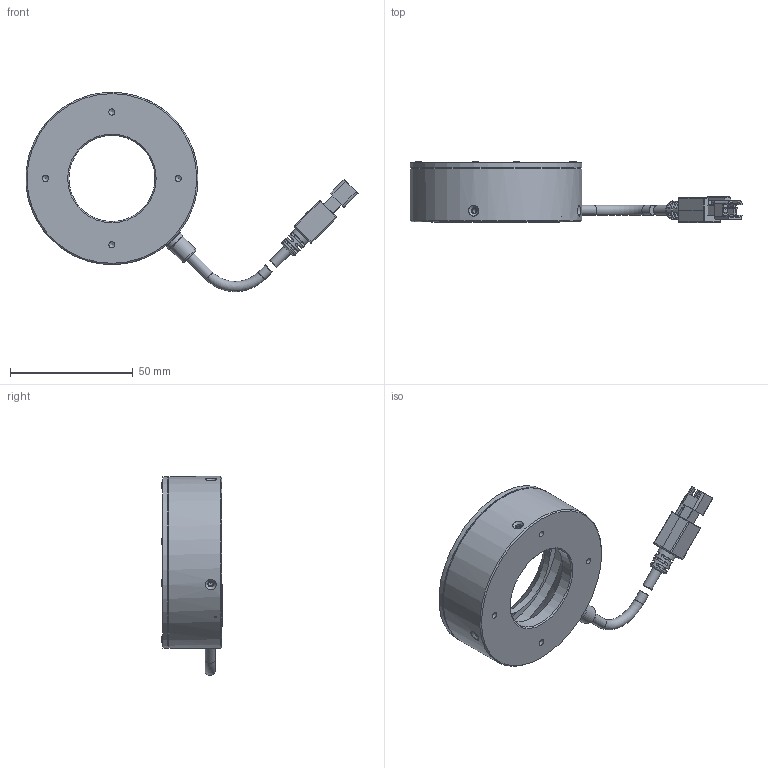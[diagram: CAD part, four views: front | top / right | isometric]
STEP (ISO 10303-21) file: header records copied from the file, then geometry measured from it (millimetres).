
FILE_DESCRIPTION (( 'STEP AP203' ), '1' );
FILE_NAME ('OPT-RI7045-X-V5.0U尨砩芞.STEP', '2024-12-12T07:40:58', ( '' ), ( '' ), 'SwSTEP 2.0', 'SolidWorks 2016', '' );
FILE_SCHEMA (( 'CONFIG_CONTROL_DESIGN' ));
Length unit declared in the file: millimetre
Products named in the file (1): OPT-RI7045-X-V5.0U尨砩芞
Bounding box: 134.96 x 24.7 x 81.02 mm (x, y, z)
Volume: 51246.8 mm3; surface area: 26487.4 mm2
Topology: 11 solids, 11 shells, 462 faces, 1150 edges, 731 vertices
Faces by surface type: plane 249, cylinder 137, cone 40, bspline 25, torus 11
Full cylindrical faces by diameter (mm): 1.05 x2, 1.1 x6, 1.4 x4, 1.6 x4, 1.7 x4, 2 x4, 2.4 x4, 2.5 x4, 2.6 x4, 3.5 x1, 4.1 x4, 5.8 x1, 7.5 x2, 8 x1, 35 x1, 38 x1, 62 x1, 66 x1, 70 x2
Entity records: 14353 total; most frequent: CARTESIAN_POINT 3992, DIRECTION 2076, ORIENTED_EDGE 2024, EDGE_CURVE 1012, AXIS2_PLACEMENT_3D 720, VERTEX_POINT 696, VECTOR 636, LINE 636
